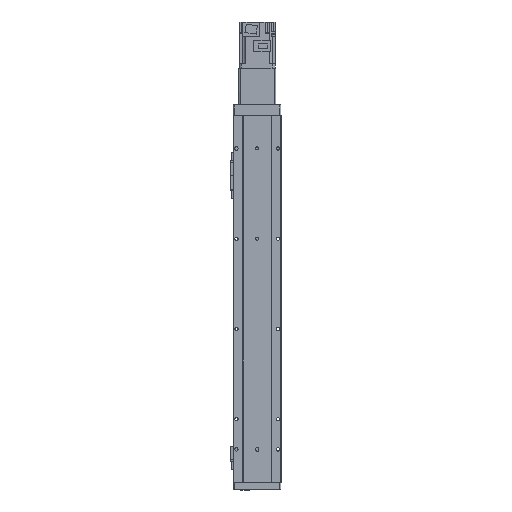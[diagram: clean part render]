
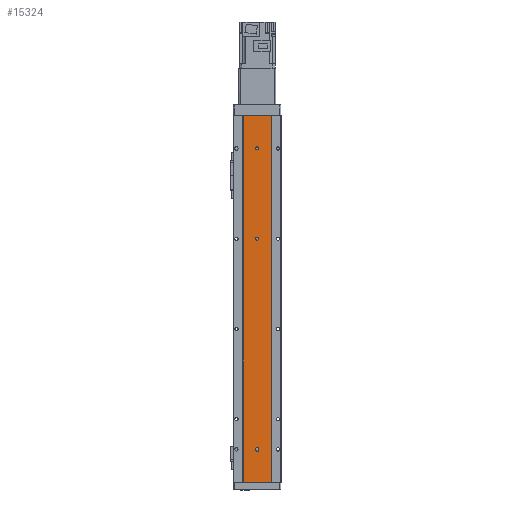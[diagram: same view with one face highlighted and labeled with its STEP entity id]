
A CAD part, front view. The second image highlights one B-rep face of the part: STEP entity #15324.
In plain terms, the highlighted planar face has unit normal (0, -1, 0).
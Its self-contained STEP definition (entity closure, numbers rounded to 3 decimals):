
#2983 = EDGE_CURVE ( 'NONE', #27517, #27442, #21027, .T. ) ;
#2989 = EDGE_CURVE ( 'NONE', #20515, #20533, #21043, .T. ) ;
#3015 = EDGE_CURVE ( 'NONE', #20616, #20485, #21079, .T. ) ;
#3307 = AXIS2_PLACEMENT_3D ( 'NONE', #13605, #13598, #13591 ) ;
#3314 = AXIS2_PLACEMENT_3D ( 'NONE', #13627, #13617, #13618 ) ;
#3668 = AXIS2_PLACEMENT_3D ( 'NONE', #40288, #40294, #40363 ) ;
#3679 = AXIS2_PLACEMENT_3D ( 'NONE', #40285, #40283, #40316 ) ;
#3694 = AXIS2_PLACEMENT_3D ( 'NONE', #40140, #40142, #40176 ) ;
#3726 = AXIS2_PLACEMENT_3D ( 'NONE', #40196, #40239, #40198 ) ;
#3912 = AXIS2_PLACEMENT_3D ( 'NONE', #10953, #10940, #10994 ) ;
#4452 = AXIS2_PLACEMENT_3D ( 'NONE', #14314, #14296, #14280 ) ;
#8733 = EDGE_CURVE ( 'NONE', #27442, #27540, #37775, .T. ) ;
#8742 = EDGE_CURVE ( 'NONE', #20533, #11919, #37920, .T. ) ;
#8745 = EDGE_CURVE ( 'NONE', #11920, #20515, #37966, .T. ) ;
#8749 = EDGE_CURVE ( 'NONE', #27517, #27448, #37866, .T. ) ;
#8769 = EDGE_CURVE ( 'NONE', #20461, #20535, #37890, .T. ) ;
#8783 = EDGE_CURVE ( 'NONE', #20485, #20616, #38104, .T. ) ;
#8792 = EDGE_CURVE ( 'NONE', #11919, #11948, #38041, .T. ) ;
#8795 = EDGE_CURVE ( 'NONE', #11948, #11920, #37996, .T. ) ;
#9961 = EDGE_CURVE ( 'NONE', #20535, #20461, #10533, .T. ) ;
#10533 = CIRCLE ( 'NONE', #3912, 2.5 ) ;
#10940 = DIRECTION ( 'NONE',  ( 0., -1., 0. ) ) ;
#10953 = CARTESIAN_POINT ( 'NONE',  ( 0., 0.5, -204.5 ) ) ;
#10994 = DIRECTION ( 'NONE',  ( 1., 0., 0. ) ) ;
#11022 = CARTESIAN_POINT ( 'NONE',  ( -2.5, 0.5, -553.5 ) ) ;
#11045 = CARTESIAN_POINT ( 'NONE',  ( 2.5, 0.5, -553.5 ) ) ;
#11048 = CARTESIAN_POINT ( 'NONE',  ( -2.5, 0.5, -555.5 ) ) ;
#11919 = VERTEX_POINT ( 'NONE', #11045 ) ;
#11920 = VERTEX_POINT ( 'NONE', #11048 ) ;
#11948 = VERTEX_POINT ( 'NONE', #11022 ) ;
#12394 = EDGE_LOOP ( 'NONE', ( #13181, #13086 ) ) ;
#12408 = EDGE_LOOP ( 'NONE', ( #13205, #13194 ) ) ;
#12433 = EDGE_LOOP ( 'NONE', ( #13177, #13130, #13051, #13165 ) ) ;
#12434 = EDGE_LOOP ( 'NONE', ( #13207, #13142, #13163, #13144, #13197 ) ) ;
#13051 = ORIENTED_EDGE ( 'NONE', *, *, #2983, .T. ) ;
#13086 = ORIENTED_EDGE ( 'NONE', *, *, #3015, .F. ) ;
#13130 = ORIENTED_EDGE ( 'NONE', *, *, #8749, .F. ) ;
#13142 = ORIENTED_EDGE ( 'NONE', *, *, #8795, .F. ) ;
#13144 = ORIENTED_EDGE ( 'NONE', *, *, #8742, .F. ) ;
#13163 = ORIENTED_EDGE ( 'NONE', *, *, #8792, .F. ) ;
#13165 = ORIENTED_EDGE ( 'NONE', *, *, #8733, .T. ) ;
#13177 = ORIENTED_EDGE ( 'NONE', *, *, #25614, .F. ) ;
#13181 = ORIENTED_EDGE ( 'NONE', *, *, #8783, .F. ) ;
#13194 = ORIENTED_EDGE ( 'NONE', *, *, #9961, .F. ) ;
#13197 = ORIENTED_EDGE ( 'NONE', *, *, #2989, .F. ) ;
#13205 = ORIENTED_EDGE ( 'NONE', *, *, #8769, .F. ) ;
#13207 = ORIENTED_EDGE ( 'NONE', *, *, #8745, .F. ) ;
#13591 = DIRECTION ( 'NONE',  ( 1., 0., 0. ) ) ;
#13598 = DIRECTION ( 'NONE',  ( 0., -1., 0. ) ) ;
#13605 = CARTESIAN_POINT ( 'NONE',  ( 0., 0.5, -54.5 ) ) ;
#13617 = DIRECTION ( 'NONE',  ( 0., -1., 0. ) ) ;
#13618 = DIRECTION ( 'NONE',  ( 1., 0., 0. ) ) ;
#13627 = CARTESIAN_POINT ( 'NONE',  ( 0., 0.5, -555.5 ) ) ;
#14280 = DIRECTION ( 'NONE',  ( 1., 0., 0. ) ) ;
#14296 = DIRECTION ( 'NONE',  ( 0., -1., 0. ) ) ;
#14314 = CARTESIAN_POINT ( 'NONE',  ( -23., 0.5, -609. ) ) ;
#14320 = PLANE ( 'NONE',  #4452 ) ;
#15026 = FACE_BOUND ( 'NONE', #12434, .T. ) ;
#15030 = FACE_BOUND ( 'NONE', #12394, .T. ) ;
#15031 = FACE_OUTER_BOUND ( 'NONE', #12433, .T. ) ;
#15036 = FACE_BOUND ( 'NONE', #12408, .T. ) ;
#15324 = ADVANCED_FACE ( 'NONE', ( #15026, #15036, #15030, #15031 ), #14320, .T. ) ;
#19069 = DIRECTION ( 'NONE',  ( 1., 0., 0. ) ) ;
#19111 = CARTESIAN_POINT ( 'NONE',  ( -23., 0.5, -609. ) ) ;
#20461 = VERTEX_POINT ( 'NONE', #41418 ) ;
#20485 = VERTEX_POINT ( 'NONE', #41457 ) ;
#20515 = VERTEX_POINT ( 'NONE', #41444 ) ;
#20533 = VERTEX_POINT ( 'NONE', #41461 ) ;
#20535 = VERTEX_POINT ( 'NONE', #41402 ) ;
#20616 = VERTEX_POINT ( 'NONE', #41502 ) ;
#20943 = VECTOR ( 'NONE', #19069, 1000. ) ;
#21027 = LINE ( 'NONE', #19111, #20943 ) ;
#21043 = CIRCLE ( 'NONE', #3314, 2.5 ) ;
#21079 = CIRCLE ( 'NONE', #3307, 2.5 ) ;
#25614 = EDGE_CURVE ( 'NONE', #27448, #27540, #40001, .T. ) ;
#27442 = VERTEX_POINT ( 'NONE', #43781 ) ;
#27448 = VERTEX_POINT ( 'NONE', #43776 ) ;
#27517 = VERTEX_POINT ( 'NONE', #43926 ) ;
#27540 = VERTEX_POINT ( 'NONE', #43902 ) ;
#37701 = VECTOR ( 'NONE', #39992, 1000. ) ;
#37775 = LINE ( 'NONE', #40013, #37701 ) ;
#37851 = VECTOR ( 'NONE', #40170, 1000. ) ;
#37866 = LINE ( 'NONE', #40100, #37875 ) ;
#37875 = VECTOR ( 'NONE', #40123, 1000. ) ;
#37890 = CIRCLE ( 'NONE', #3726, 2.5 ) ;
#37920 = LINE ( 'NONE', #40138, #37851 ) ;
#37966 = CIRCLE ( 'NONE', #3694, 2.5 ) ;
#37996 = LINE ( 'NONE', #40412, #38046 ) ;
#38041 = CIRCLE ( 'NONE', #3668, 2.5 ) ;
#38046 = VECTOR ( 'NONE', #40446, 1000. ) ;
#38104 = CIRCLE ( 'NONE', #3679, 2.5 ) ;
#39964 = VECTOR ( 'NONE', #42391, 1000. ) ;
#39992 = DIRECTION ( 'NONE',  ( 0., 0., 1. ) ) ;
#40001 = LINE ( 'NONE', #42380, #39964 ) ;
#40013 = CARTESIAN_POINT ( 'NONE',  ( 23., 0.5, -609. ) ) ;
#40100 = CARTESIAN_POINT ( 'NONE',  ( -23., 0.5, -609. ) ) ;
#40123 = DIRECTION ( 'NONE',  ( 0., 0., 1. ) ) ;
#40138 = CARTESIAN_POINT ( 'NONE',  ( 2.5, 0.5, -609. ) ) ;
#40140 = CARTESIAN_POINT ( 'NONE',  ( 0., 0.5, -555.5 ) ) ;
#40142 = DIRECTION ( 'NONE',  ( 0., -1., 0. ) ) ;
#40170 = DIRECTION ( 'NONE',  ( 0., 0., 1. ) ) ;
#40176 = DIRECTION ( 'NONE',  ( 1., 0., 0. ) ) ;
#40196 = CARTESIAN_POINT ( 'NONE',  ( 0., 0.5, -204.5 ) ) ;
#40198 = DIRECTION ( 'NONE',  ( 1., 0., 0. ) ) ;
#40239 = DIRECTION ( 'NONE',  ( 0., -1., 0. ) ) ;
#40283 = DIRECTION ( 'NONE',  ( 0., -1., 0. ) ) ;
#40285 = CARTESIAN_POINT ( 'NONE',  ( 0., 0.5, -54.5 ) ) ;
#40288 = CARTESIAN_POINT ( 'NONE',  ( 0., 0.5, -553.5 ) ) ;
#40294 = DIRECTION ( 'NONE',  ( 0., -1., 0. ) ) ;
#40316 = DIRECTION ( 'NONE',  ( 1., 0., 0. ) ) ;
#40363 = DIRECTION ( 'NONE',  ( 1., 0., 0. ) ) ;
#40412 = CARTESIAN_POINT ( 'NONE',  ( -2.5, 0.5, -609. ) ) ;
#40446 = DIRECTION ( 'NONE',  ( 0., 0., -1. ) ) ;
#41402 = CARTESIAN_POINT ( 'NONE',  ( 0., 0.5, -202. ) ) ;
#41418 = CARTESIAN_POINT ( 'NONE',  ( 0., 0.5, -207. ) ) ;
#41444 = CARTESIAN_POINT ( 'NONE',  ( 0., 0.5, -558. ) ) ;
#41457 = CARTESIAN_POINT ( 'NONE',  ( 0., 0.5, -57. ) ) ;
#41461 = CARTESIAN_POINT ( 'NONE',  ( 2.5, 0.5, -555.5 ) ) ;
#41502 = CARTESIAN_POINT ( 'NONE',  ( 0., 0.5, -52. ) ) ;
#42380 = CARTESIAN_POINT ( 'NONE',  ( -23., 0.5, 0. ) ) ;
#42391 = DIRECTION ( 'NONE',  ( 1., 0., 0. ) ) ;
#43776 = CARTESIAN_POINT ( 'NONE',  ( -23., 0.5, 0. ) ) ;
#43781 = CARTESIAN_POINT ( 'NONE',  ( 23., 0.5, -609. ) ) ;
#43902 = CARTESIAN_POINT ( 'NONE',  ( 23., 0.5, 0. ) ) ;
#43926 = CARTESIAN_POINT ( 'NONE',  ( -23., 0.5, -609. ) ) ;
